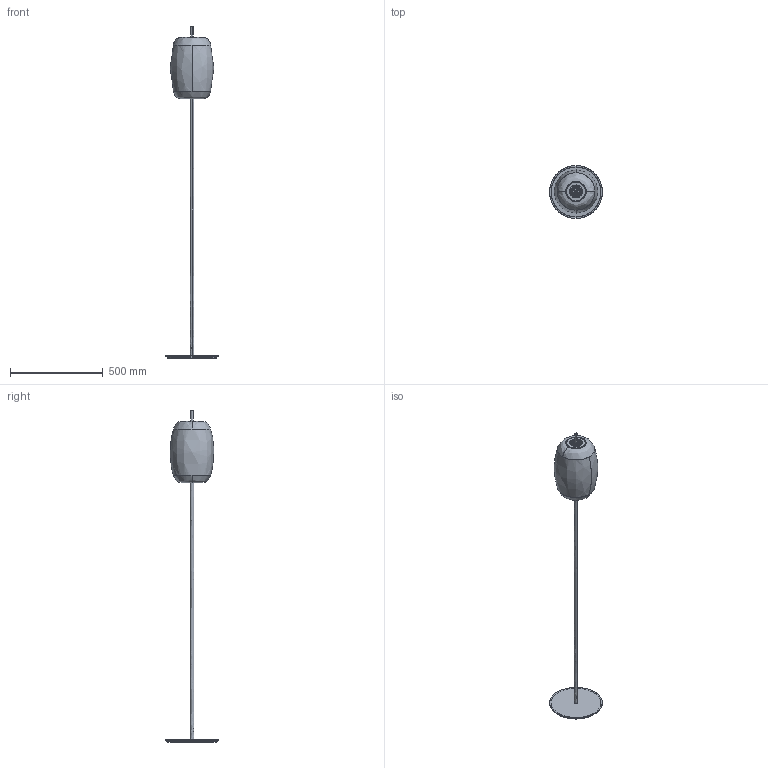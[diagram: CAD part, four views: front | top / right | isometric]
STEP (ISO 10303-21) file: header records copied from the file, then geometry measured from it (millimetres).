
FILE_DESCRIPTION(/* description */ (''),/* implementation_level */ '2;1');
FILE_NAME(/* name */ 'T181__.033',/* time_stamp */ '2025-05-16T09:52:10+02:00',/* author */ (''),/* organization */ (''),/* preprocessor_version */ 'ST-DEVELOPER v16.5',/* originating_system */ '',/* authorisation */ '');
FILE_SCHEMA (('AUTOMOTIVE_DESIGN'));
Length unit declared in the file: millimetre
Products named in the file (19): Document; 3500.0033000.00 (schermo ovale VETRO sp 7 con decoro molato)_3512.003
3033.00; Blocco 53; 3200.0903000.00 (disco basamento ACC Ø 270mm sp 10)_3205.0903000.
00; Blocco 54; 3300.0541000.00 (disco base ALL Ø 285mm sp 3 con foro per vite M8
)_3301.0541000.00; Blocco 05; 3200.0286000.00 (stelo tubolare ACC D 20mm sp 1)_3201.0286169.00; Blocco 56; 3300.0538000.00 (barra tonda OTTONE Ø 13mm H 60mm con filetto M4)
_3307.0538000.00; Blocco 02; 3200.00881000.00 (piattello chiusura ACC Ø 102mm sp 2)_3201.08810
01.00; Blocco 61; 3300.0116000.00 (testa cilindrica ALL D 101mm H 10mm)_3306.0116004.00; Blocco 60; 3100.0037001.00 (schermo anello PMMA D est. 100,4mm D int. 57,3mm sp 
3)_3105.0037001.99; Blocco 55; 3200.0889000.00 (piattello di chiusura con uscita cavo ACC Ø 64mm
 sp 3)_3205.0889000.00; Blocco 01
Assembly tree (18 placements, depth 3):
  Document
    3500.0033000.00 (schermo ovale VETRO sp 7 con decoro molato)_3512.003
3033.00
      Blocco 53
    3200.0903000.00 (disco basamento ACC Ø 270mm sp 10)_3205.0903000.
00
      Blocco 54
    3300.0541000.00 (disco base ALL Ø 285mm sp 3 con foro per vite M8
)_3301.0541000.00
      Blocco 05
    3200.0286000.00 (stelo tubolare ACC D 20mm sp 1)_3201.0286169.00
      Blocco 56
    3300.0538000.00 (barra tonda OTTONE Ø 13mm H 60mm con filetto M4)
_3307.0538000.00
      Blocco 02
    3200.00881000.00 (piattello chiusura ACC Ø 102mm sp 2)_3201.08810
01.00
      Blocco 61
    3300.0116000.00 (testa cilindrica ALL D 101mm H 10mm)_3306.0116004.00
      Blocco 60
    3100.0037001.00 (schermo anello PMMA D est. 100,4mm D int. 57,3mm sp 
3)_3105.0037001.99
      Blocco 55
    3200.0889000.00 (piattello di chiusura con uscita cavo ACC Ø 64mm
 sp 3)_3205.0889000.00
      Blocco 01
Bounding box: 284.8 x 285 x 1792.5 mm (x, y, z)
Surface area: 1001258.1 mm2 (no closed solid volume)
Topology: 0 solids, 387 shells, 387 faces, 2036 edges, 2030 vertices
Faces by surface type: bspline 357, plane 30
Entity records: 28441 total; most frequent: CARTESIAN_POINT 18563, ORIENTED_EDGE 2030, EDGE_CURVE 2030, VERTEX_POINT 2030, B_SPLINE_CURVE_WITH_KNOTS 682, EDGE_LOOP 487, PRESENTATION_LAYER_ASSIGNMENT 387, SHELL_BASED_SURFACE_MODEL 387
